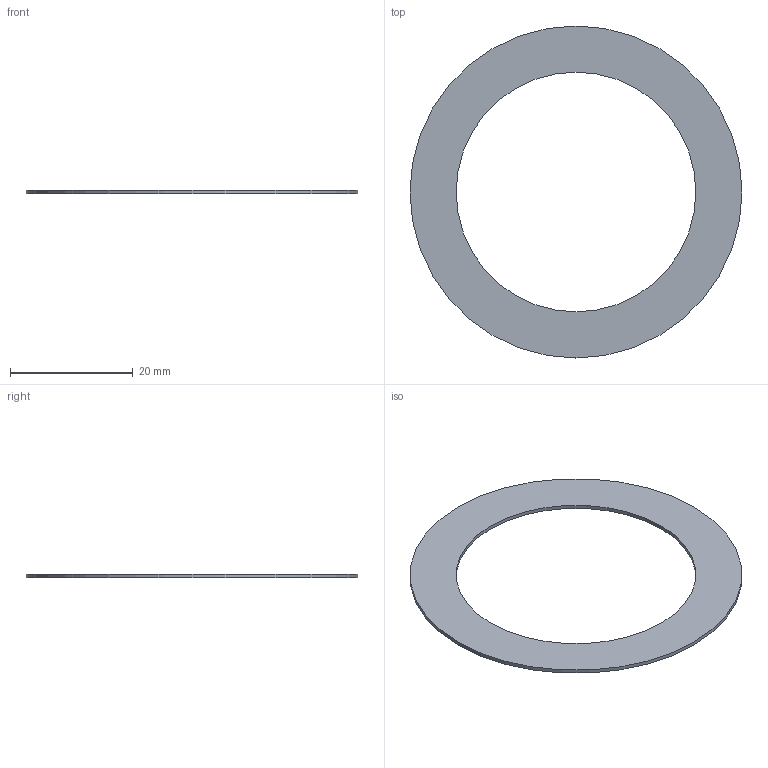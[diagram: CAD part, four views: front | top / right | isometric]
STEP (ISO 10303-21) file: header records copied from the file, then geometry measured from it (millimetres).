
FILE_DESCRIPTION(('STEP AP203'), '1');
FILE_NAME('êðóæîê íà äûðêó', '', ('UNSPECIFIED'), ('UNSPECIFIED'), 'ASCON STEP Converter 1.3', 'ASCON Math Kernel', '');
FILE_SCHEMA(('CONFIG_CONTROL_DESIGN'));
Length unit declared in the file: millimetre
Bounding box: 54 x 54 x 0.6 mm (x, y, z)
Volume: 657.4 mm3; surface area: 2366.6 mm2
Topology: 1 solids, 1 shells, 4 faces, 6 edges, 4 vertices
Faces by surface type: plane 2, cylinder 2
Full cylindrical faces by diameter (mm): 39 x1, 54 x1
Entity records: 164 total; most frequent: DIRECTION 18, CARTESIAN_POINT 13, AXIS2_PLACEMENT_3D 9, EDGE_LOOP 8, ORIENTED_EDGE 8, COLOUR_RGB 5, FILL_AREA_STYLE_COLOUR 5, FILL_AREA_STYLE 5
